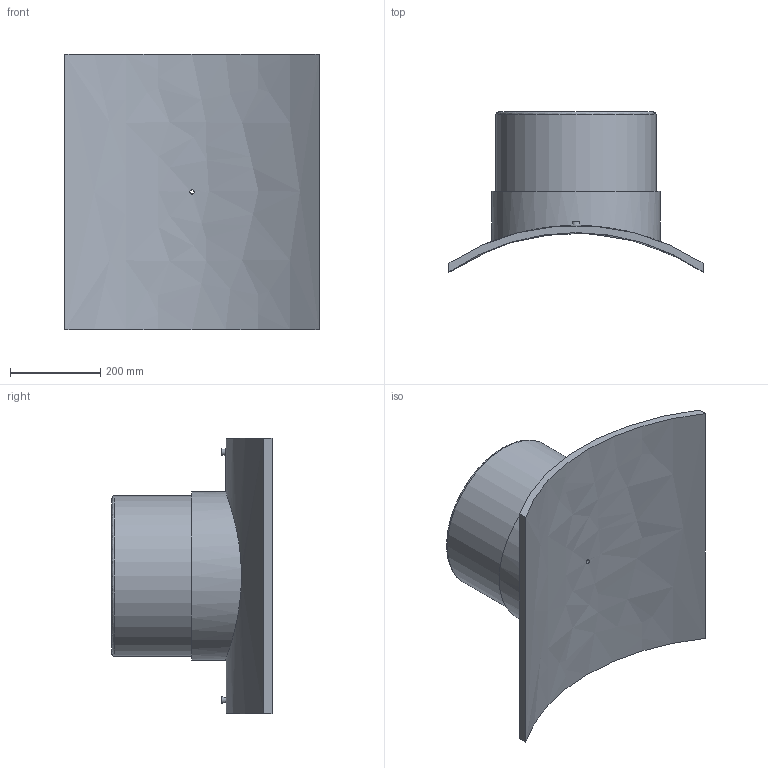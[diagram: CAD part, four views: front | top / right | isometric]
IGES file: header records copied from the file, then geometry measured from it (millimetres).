
Global section: file name: 4958031000355T.ipt; native system: Autodesk Inventor 2019; preprocessor: unknown; author: KIM; date: 20210225.094959; units: millimetre
Bounding box: 563 x 354.77 x 610 mm (x, y, z)
Volume: 16194793.4 mm3; surface area: 1316989.6 mm2
Topology: 2 solids, 2 shells, 29 faces, 54 edges, 38 vertices
Faces by surface type: plane 13, revolution 7, cylinder 7, cone 2
Full cylindrical faces by diameter (mm): 4 x2, 16 x1, 355 x1, 372.75 x1
